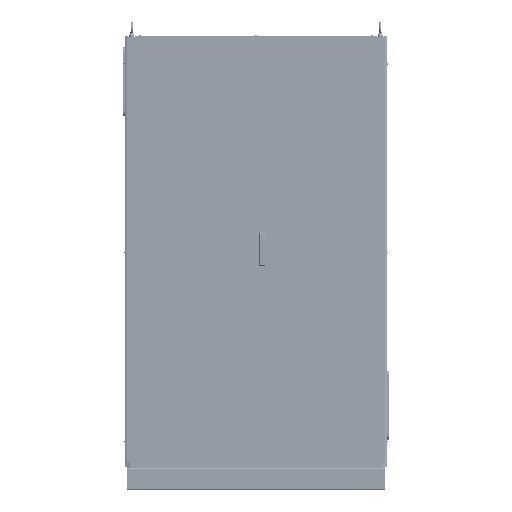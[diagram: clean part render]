
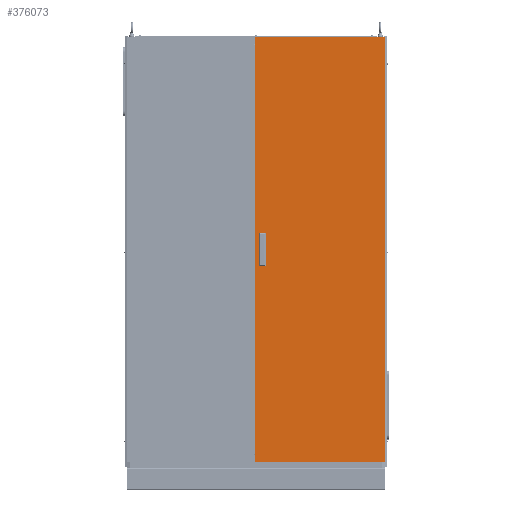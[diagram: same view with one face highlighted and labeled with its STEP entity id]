
A CAD part, top view. The second image highlights one B-rep face of the part: STEP entity #376073.
In plain terms, the highlighted planar face has unit normal (0, 0, 1).
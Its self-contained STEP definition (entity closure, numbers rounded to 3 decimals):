
#6396 = VERTEX_POINT ( 'NONE', #335298 ) ;
#19693 = DIRECTION ( 'NONE',  ( -1., 0., 0. ) ) ;
#34928 = EDGE_LOOP ( 'NONE', ( #636693, #622931, #761404, #843757 ) ) ;
#36604 = CARTESIAN_POINT ( 'NONE',  ( 597., 28., 300. ) ) ;
#36803 = LINE ( 'NONE', #817834, #798495 ) ;
#49985 = VECTOR ( 'NONE', #163792, 1000. ) ;
#58433 = CARTESIAN_POINT ( 'NONE',  ( 44.2, 1090., 300. ) ) ;
#75001 = DIRECTION ( 'NONE',  ( 1., 0., 0. ) ) ;
#110599 = VECTOR ( 'NONE', #815894, 1000. ) ;
#114990 = DIRECTION ( 'NONE',  ( 1., 0., 0. ) ) ;
#124444 = CARTESIAN_POINT ( 'NONE',  ( 44.2, 1011.5, 300. ) ) ;
#128530 = AXIS2_PLACEMENT_3D ( 'NONE', #986292, #530440, #75001 ) ;
#130679 = CARTESIAN_POINT ( 'NONE',  ( -3., 28., 300. ) ) ;
#136506 = EDGE_CURVE ( 'NONE', #275508, #555145, #570836, .T. ) ;
#142371 = VECTOR ( 'NONE', #416328, 1000. ) ;
#163792 = DIRECTION ( 'NONE',  ( 0., -1., 0. ) ) ;
#178700 = CARTESIAN_POINT ( 'NONE',  ( 13.8, 933., 300. ) ) ;
#200910 = DIRECTION ( 'NONE',  ( 0., -1., 0. ) ) ;
#207527 = EDGE_CURVE ( 'NONE', #555145, #343851, #710436, .T. ) ;
#220096 = VERTEX_POINT ( 'NONE', #357318 ) ;
#245672 = CARTESIAN_POINT ( 'NONE',  ( -3., 1995., 300. ) ) ;
#252094 = VERTEX_POINT ( 'NONE', #58433 ) ;
#261803 = LINE ( 'NONE', #417511, #845019 ) ;
#275508 = VERTEX_POINT ( 'NONE', #36604 ) ;
#278695 = FACE_OUTER_BOUND ( 'NONE', #34928, .T. ) ;
#335298 = CARTESIAN_POINT ( 'NONE',  ( 13.8, 1090., 300. ) ) ;
#343851 = VERTEX_POINT ( 'NONE', #682731 ) ;
#353781 = ORIENTED_EDGE ( 'NONE', *, *, #931263, .T. ) ;
#357318 = CARTESIAN_POINT ( 'NONE',  ( -3., 28., 300. ) ) ;
#376073 = ADVANCED_FACE ( 'NONE', ( #278695, #861963 ), #600412, .T. ) ;
#407204 = EDGE_CURVE ( 'NONE', #569542, #896676, #462519, .T. ) ;
#416328 = DIRECTION ( 'NONE',  ( 0., 1., 0. ) ) ;
#417511 = CARTESIAN_POINT ( 'NONE',  ( 13.8, 1090., 300. ) ) ;
#426690 = CARTESIAN_POINT ( 'NONE',  ( 597., 1995., 300. ) ) ;
#462519 = LINE ( 'NONE', #876614, #617323 ) ;
#475605 = ORIENTED_EDGE ( 'NONE', *, *, #974425, .T. ) ;
#484099 = VECTOR ( 'NONE', #19693, 1000. ) ;
#486453 = CARTESIAN_POINT ( 'NONE',  ( 597., 1995., 300. ) ) ;
#491023 = EDGE_CURVE ( 'NONE', #220096, #275508, #538904, .T. ) ;
#530440 = DIRECTION ( 'NONE',  ( 0., 0., 1. ) ) ;
#536768 = EDGE_CURVE ( 'NONE', #343851, #220096, #656915, .T. ) ;
#538904 = LINE ( 'NONE', #130679, #110599 ) ;
#555145 = VERTEX_POINT ( 'NONE', #426690 ) ;
#558813 = LINE ( 'NONE', #124444, #939854 ) ;
#569542 = VERTEX_POINT ( 'NONE', #178700 ) ;
#570778 = DIRECTION ( 'NONE',  ( 1., 0., 0. ) ) ;
#570836 = LINE ( 'NONE', #486453, #142371 ) ;
#588192 = DIRECTION ( 'NONE',  ( 0., -1., 0. ) ) ;
#600412 = PLANE ( 'NONE',  #128530 ) ;
#617323 = VECTOR ( 'NONE', #114990, 1000. ) ;
#622931 = ORIENTED_EDGE ( 'NONE', *, *, #207527, .T. ) ;
#636693 = ORIENTED_EDGE ( 'NONE', *, *, #136506, .T. ) ;
#654764 = ORIENTED_EDGE ( 'NONE', *, *, #911542, .F. ) ;
#656915 = LINE ( 'NONE', #772448, #49985 ) ;
#682731 = CARTESIAN_POINT ( 'NONE',  ( -3., 1995., 300. ) ) ;
#710436 = LINE ( 'NONE', #245672, #484099 ) ;
#726121 = CARTESIAN_POINT ( 'NONE',  ( 44.2, 933., 300. ) ) ;
#761404 = ORIENTED_EDGE ( 'NONE', *, *, #536768, .T. ) ;
#772448 = CARTESIAN_POINT ( 'NONE',  ( -3., 1995., 300. ) ) ;
#774193 = ORIENTED_EDGE ( 'NONE', *, *, #407204, .F. ) ;
#798495 = VECTOR ( 'NONE', #588192, 1000. ) ;
#815894 = DIRECTION ( 'NONE',  ( 1., 0., 0. ) ) ;
#817834 = CARTESIAN_POINT ( 'NONE',  ( 13.8, 1011.5, 300. ) ) ;
#843757 = ORIENTED_EDGE ( 'NONE', *, *, #491023, .T. ) ;
#845019 = VECTOR ( 'NONE', #570778, 1000. ) ;
#861963 = FACE_BOUND ( 'NONE', #984996, .T. ) ;
#876614 = CARTESIAN_POINT ( 'NONE',  ( 13.8, 933., 300. ) ) ;
#896676 = VERTEX_POINT ( 'NONE', #726121 ) ;
#911542 = EDGE_CURVE ( 'NONE', #6396, #569542, #36803, .T. ) ;
#931263 = EDGE_CURVE ( 'NONE', #252094, #896676, #558813, .T. ) ;
#939854 = VECTOR ( 'NONE', #200910, 1000. ) ;
#974425 = EDGE_CURVE ( 'NONE', #6396, #252094, #261803, .T. ) ;
#984996 = EDGE_LOOP ( 'NONE', ( #654764, #475605, #353781, #774193 ) ) ;
#986292 = CARTESIAN_POINT ( 'NONE',  ( 297., 1011.5, 300. ) ) ;
